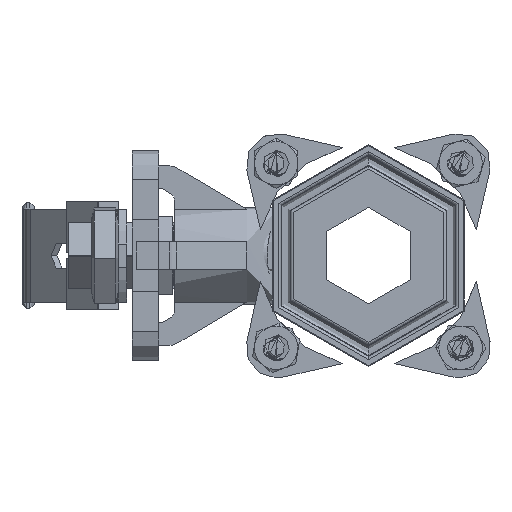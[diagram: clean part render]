
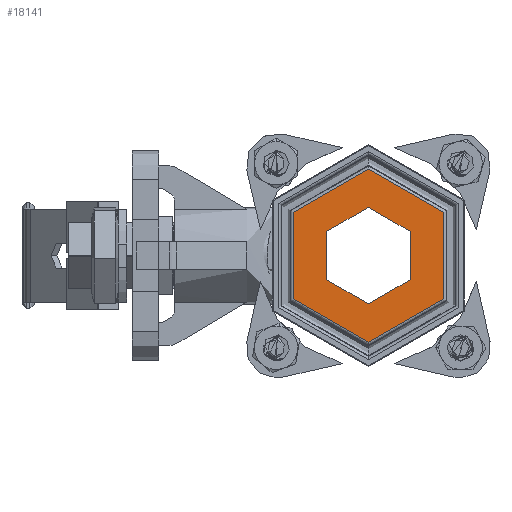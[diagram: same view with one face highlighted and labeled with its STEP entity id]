
A CAD part, left-side view. The second image highlights one B-rep face of the part: STEP entity #18141.
In plain terms, the highlighted planar face has unit normal (-1, 0, 0) as drawn and (0, 0, 1) by its records, which use the part's own axes.
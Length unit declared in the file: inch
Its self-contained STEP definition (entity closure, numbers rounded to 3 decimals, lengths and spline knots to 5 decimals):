
#798 = CARTESIAN_POINT ( 'NONE',  ( 0., 0.435, 1.6 ) ) ;
#1360 = EDGE_LOOP ( 'NONE', ( #15635, #20381 ) ) ;
#1996 = FACE_OUTER_BOUND ( 'NONE', #3782, .T. ) ;
#2848 = CARTESIAN_POINT ( 'NONE',  ( -0.435, 0., 1.6 ) ) ;
#3721 = DIRECTION ( 'NONE',  ( 0., 0., 1. ) ) ;
#3782 = EDGE_LOOP ( 'NONE', ( #18674, #4546 ) ) ;
#4108 = CARTESIAN_POINT ( 'NONE',  ( 0., 0., 1.6 ) ) ;
#4546 = ORIENTED_EDGE ( 'NONE', *, *, #11945, .T. ) ;
#5165 = CIRCLE ( 'NONE', #22748, 0.435 ) ;
#5940 = DIRECTION ( 'NONE',  ( 1., 0., 0. ) ) ;
#6053 = CARTESIAN_POINT ( 'NONE',  ( 0., 0., 1.6 ) ) ;
#6231 = EDGE_CURVE ( 'NONE', #17469, #15357, #20212, .T. ) ;
#6305 = PLANE ( 'NONE',  #23378 ) ;
#7891 = DIRECTION ( 'NONE',  ( 1., 0., 0. ) ) ;
#8114 = DIRECTION ( 'NONE',  ( 0., 0., -1. ) ) ;
#8344 = CIRCLE ( 'NONE', #8372, 0.435 ) ;
#8372 = AXIS2_PLACEMENT_3D ( 'NONE', #21144, #10213, #22941 ) ;
#9885 = CIRCLE ( 'NONE', #13689, 0.78063 ) ;
#10213 = DIRECTION ( 'NONE',  ( 0., 0., 1. ) ) ;
#10864 = EDGE_CURVE ( 'NONE', #23271, #22220, #8344, .T. ) ;
#11945 = EDGE_CURVE ( 'NONE', #15357, #17469, #9885, .T. ) ;
#13689 = AXIS2_PLACEMENT_3D ( 'NONE', #6053, #18809, #7891 ) ;
#14627 = CARTESIAN_POINT ( 'NONE',  ( 0., 0., 1.6 ) ) ;
#14840 = CARTESIAN_POINT ( 'NONE',  ( 0.435, 0., 1.6 ) ) ;
#15357 = VERTEX_POINT ( 'NONE', #18642 ) ;
#15635 = ORIENTED_EDGE ( 'NONE', *, *, #10864, .F. ) ;
#15982 = AXIS2_PLACEMENT_3D ( 'NONE', #4108, #16860, #5940 ) ;
#16467 = DIRECTION ( 'NONE',  ( 1., 0., 0. ) ) ;
#16860 = DIRECTION ( 'NONE',  ( 0., 0., 1. ) ) ;
#16869 = EDGE_CURVE ( 'NONE', #22220, #23271, #5165, .T. ) ;
#17469 = VERTEX_POINT ( 'NONE', #19045 ) ;
#17680 = FACE_BOUND ( 'NONE', #1360, .T. ) ;
#18141 = ADVANCED_FACE ( 'NONE', ( #17680, #1996 ), #6305, .F. ) ;
#18642 = CARTESIAN_POINT ( 'NONE',  ( -0.78063, 0., 1.6 ) ) ;
#18674 = ORIENTED_EDGE ( 'NONE', *, *, #6231, .T. ) ;
#18809 = DIRECTION ( 'NONE',  ( 0., 0., 1. ) ) ;
#19045 = CARTESIAN_POINT ( 'NONE',  ( 0.78063, 0., 1.6 ) ) ;
#20212 = CIRCLE ( 'NONE', #15982, 0.78063 ) ;
#20381 = ORIENTED_EDGE ( 'NONE', *, *, #16869, .F. ) ;
#20892 = DIRECTION ( 'NONE',  ( -1., 0., 0. ) ) ;
#21144 = CARTESIAN_POINT ( 'NONE',  ( 0., 0., 1.6 ) ) ;
#22220 = VERTEX_POINT ( 'NONE', #2848 ) ;
#22748 = AXIS2_PLACEMENT_3D ( 'NONE', #14627, #3721, #16467 ) ;
#22941 = DIRECTION ( 'NONE',  ( 1., 0., 0. ) ) ;
#23271 = VERTEX_POINT ( 'NONE', #14840 ) ;
#23378 = AXIS2_PLACEMENT_3D ( 'NONE', #798, #8114, #20892 ) ;
